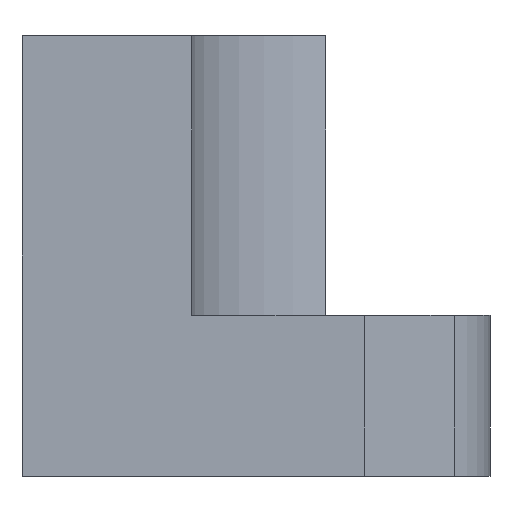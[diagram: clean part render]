
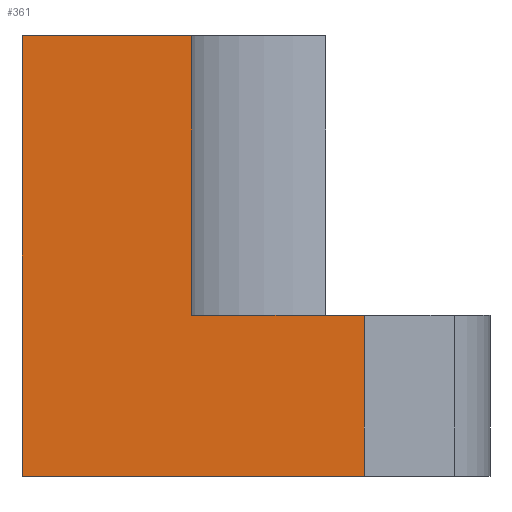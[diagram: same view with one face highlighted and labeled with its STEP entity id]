
A CAD part, front view. The second image highlights one B-rep face of the part: STEP entity #361.
In plain terms, the highlighted planar face has unit normal (0, -1, 0).
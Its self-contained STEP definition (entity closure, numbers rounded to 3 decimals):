
#34 = VECTOR ( 'NONE', #79, 1000. ) ;
#79 = DIRECTION ( 'NONE',  ( 0., 0., -1. ) ) ;
#174 = LINE ( 'NONE', #332, #1032 ) ;
#242 = DIRECTION ( 'NONE',  ( -1., 0., 0. ) ) ;
#255 = VECTOR ( 'NONE', #657, 1000. ) ;
#266 = CARTESIAN_POINT ( 'NONE',  ( 15.549, -16.2, 20. ) ) ;
#320 = LINE ( 'NONE', #519, #661 ) ;
#330 = ORIENTED_EDGE ( 'NONE', *, *, #556, .T. ) ;
#332 = CARTESIAN_POINT ( 'NONE',  ( 0., -16.2, 7.3 ) ) ;
#343 = VERTEX_POINT ( 'NONE', #1453 ) ;
#355 = CARTESIAN_POINT ( 'NONE',  ( 21.25, -16.2, 0. ) ) ;
#361 = ADVANCED_FACE ( 'NONE', ( #369 ), #410, .T. ) ;
#369 = FACE_OUTER_BOUND ( 'NONE', #584, .T. ) ;
#410 = PLANE ( 'NONE',  #591 ) ;
#501 = VERTEX_POINT ( 'NONE', #1686 ) ;
#510 = CARTESIAN_POINT ( 'NONE',  ( 0., -16.2, 20. ) ) ;
#519 = CARTESIAN_POINT ( 'NONE',  ( 21.25, -16.2, 7.3 ) ) ;
#540 = VERTEX_POINT ( 'NONE', #1758 ) ;
#556 = EDGE_CURVE ( 'NONE', #540, #501, #320, .T. ) ;
#558 = CARTESIAN_POINT ( 'NONE',  ( 15.549, -16.2, 0. ) ) ;
#584 = EDGE_LOOP ( 'NONE', ( #608, #330, #1944, #805, #1176, #689 ) ) ;
#591 = AXIS2_PLACEMENT_3D ( 'NONE', #1024, #1294, #682 ) ;
#601 = EDGE_CURVE ( 'NONE', #1450, #343, #174, .T. ) ;
#608 = ORIENTED_EDGE ( 'NONE', *, *, #1843, .F. ) ;
#616 = VECTOR ( 'NONE', #1920, 1000. ) ;
#650 = CARTESIAN_POINT ( 'NONE',  ( 7.7, -16.2, 20. ) ) ;
#655 = EDGE_CURVE ( 'NONE', #1148, #501, #778, .T. ) ;
#657 = DIRECTION ( 'NONE',  ( -1., 0., 0. ) ) ;
#661 = VECTOR ( 'NONE', #242, 1000. ) ;
#682 = DIRECTION ( 'NONE',  ( 0., 0., -1. ) ) ;
#689 = ORIENTED_EDGE ( 'NONE', *, *, #1698, .F. ) ;
#694 = LINE ( 'NONE', #510, #255 ) ;
#736 = CARTESIAN_POINT ( 'NONE',  ( 0., -16.2, 20. ) ) ;
#778 = LINE ( 'NONE', #989, #34 ) ;
#805 = ORIENTED_EDGE ( 'NONE', *, *, #1213, .T. ) ;
#989 = CARTESIAN_POINT ( 'NONE',  ( 7.7, -16.2, 41.281 ) ) ;
#998 = LINE ( 'NONE', #266, #616 ) ;
#1024 = CARTESIAN_POINT ( 'NONE',  ( 21.25, -16.2, 7.3 ) ) ;
#1032 = VECTOR ( 'NONE', #1675, 1000. ) ;
#1148 = VERTEX_POINT ( 'NONE', #650 ) ;
#1175 = VECTOR ( 'NONE', #1409, 1000. ) ;
#1176 = ORIENTED_EDGE ( 'NONE', *, *, #601, .T. ) ;
#1213 = EDGE_CURVE ( 'NONE', #1148, #1450, #694, .T. ) ;
#1294 = DIRECTION ( 'NONE',  ( 0., -1., 0. ) ) ;
#1409 = DIRECTION ( 'NONE',  ( -1., 0., 0. ) ) ;
#1450 = VERTEX_POINT ( 'NONE', #736 ) ;
#1453 = CARTESIAN_POINT ( 'NONE',  ( 0., -16.2, 0. ) ) ;
#1561 = LINE ( 'NONE', #355, #1175 ) ;
#1675 = DIRECTION ( 'NONE',  ( 0., 0., -1. ) ) ;
#1686 = CARTESIAN_POINT ( 'NONE',  ( 7.7, -16.2, 7.3 ) ) ;
#1698 = EDGE_CURVE ( 'NONE', #1819, #343, #1561, .T. ) ;
#1758 = CARTESIAN_POINT ( 'NONE',  ( 15.549, -16.2, 7.3 ) ) ;
#1819 = VERTEX_POINT ( 'NONE', #558 ) ;
#1843 = EDGE_CURVE ( 'NONE', #540, #1819, #998, .T. ) ;
#1920 = DIRECTION ( 'NONE',  ( 0., 0., -1. ) ) ;
#1944 = ORIENTED_EDGE ( 'NONE', *, *, #655, .F. ) ;
